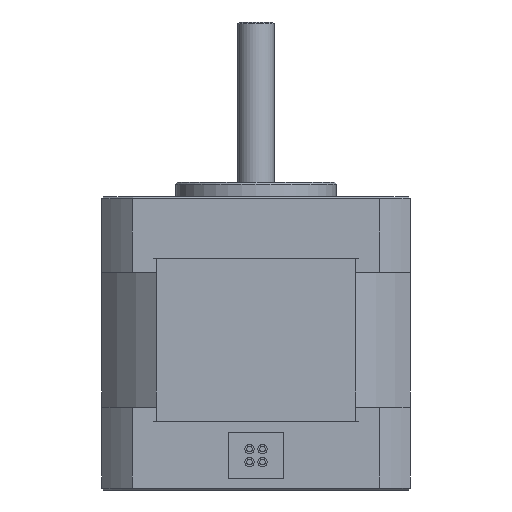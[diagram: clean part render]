
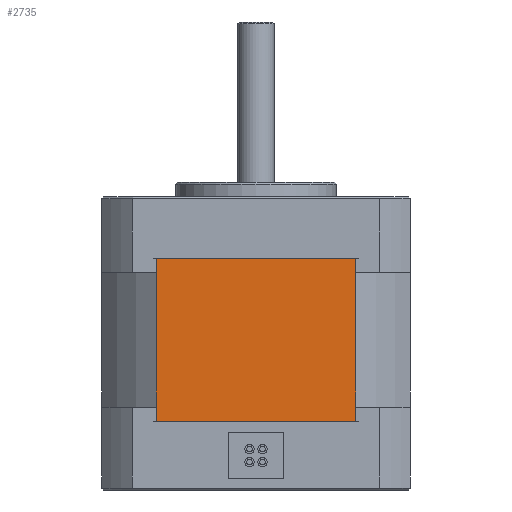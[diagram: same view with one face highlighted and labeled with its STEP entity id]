
A CAD part, front view. The second image highlights one B-rep face of the part: STEP entity #2735.
In plain terms, the highlighted planar face has unit normal (0, -1, 0).
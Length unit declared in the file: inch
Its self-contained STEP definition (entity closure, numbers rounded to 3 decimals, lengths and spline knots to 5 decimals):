
#1723 = EDGE_CURVE ( 'NONE', #1907, #1730, #4923, .T. ) ;
#1730 = VERTEX_POINT ( 'NONE', #4913 ) ;
#1907 = VERTEX_POINT ( 'NONE', #5562 ) ;
#2096 = VERTEX_POINT ( 'NONE', #6810 ) ;
#2138 = VERTEX_POINT ( 'NONE', #6969 ) ;
#2154 = EDGE_CURVE ( 'NONE', #2138, #2096, #6648, .T. ) ;
#2721 = ORIENTED_EDGE ( 'NONE', *, *, #1723, .F. ) ;
#2734 = ORIENTED_EDGE ( 'NONE', *, *, #2737, .F. ) ;
#2735 = ADVANCED_FACE ( 'NONE', ( #6160 ), #6199, .F. ) ;
#2737 = EDGE_CURVE ( 'NONE', #1730, #2096, #6168, .T. ) ;
#2740 = ORIENTED_EDGE ( 'NONE', *, *, #2154, .T. ) ;
#2745 = EDGE_LOOP ( 'NONE', ( #2740, #2734, #2721, #2746 ) ) ;
#2746 = ORIENTED_EDGE ( 'NONE', *, *, #2886, .T. ) ;
#2886 = EDGE_CURVE ( 'NONE', #1907, #2138, #3519, .T. ) ;
#3514 = DIRECTION ( 'NONE',  ( 0., 0., 1. ) ) ;
#3517 = VECTOR ( 'NONE', #3514, 39.37008 ) ;
#3518 = CARTESIAN_POINT ( 'NONE',  ( 0.53473, -0.829, -1.205 ) ) ;
#3519 = LINE ( 'NONE', #3518, #3517 ) ;
#4913 = CARTESIAN_POINT ( 'NONE',  ( -0.53473, -0.829, -1.205 ) ) ;
#4916 = DIRECTION ( 'NONE',  ( -1., 0., 0. ) ) ;
#4917 = VECTOR ( 'NONE', #4916, 39.37008 ) ;
#4923 = LINE ( 'NONE', #5062, #4917 ) ;
#5062 = CARTESIAN_POINT ( 'NONE',  ( 0.53473, -0.829, -1.205 ) ) ;
#5562 = CARTESIAN_POINT ( 'NONE',  ( 0.53473, -0.829, -1.205 ) ) ;
#6160 = FACE_OUTER_BOUND ( 'NONE', #2745, .T. ) ;
#6167 = CARTESIAN_POINT ( 'NONE',  ( -0.53473, -0.829, -1.205 ) ) ;
#6168 = LINE ( 'NONE', #6167, #6216 ) ;
#6171 = AXIS2_PLACEMENT_3D ( 'NONE', #6177, #6176, #6175 ) ;
#6175 = DIRECTION ( 'NONE',  ( -1., 0., 0. ) ) ;
#6176 = DIRECTION ( 'NONE',  ( 0., 1., 0. ) ) ;
#6177 = CARTESIAN_POINT ( 'NONE',  ( 0.53473, -0.829, -1.205 ) ) ;
#6199 = PLANE ( 'NONE',  #6171 ) ;
#6215 = DIRECTION ( 'NONE',  ( 0., 0., 1. ) ) ;
#6216 = VECTOR ( 'NONE', #6215, 39.37008 ) ;
#6647 = CARTESIAN_POINT ( 'NONE',  ( 0.53473, -0.829, -0.33 ) ) ;
#6648 = LINE ( 'NONE', #6647, #6669 ) ;
#6668 = DIRECTION ( 'NONE',  ( -1., 0., 0. ) ) ;
#6669 = VECTOR ( 'NONE', #6668, 39.37008 ) ;
#6810 = CARTESIAN_POINT ( 'NONE',  ( -0.53473, -0.829, -0.33 ) ) ;
#6969 = CARTESIAN_POINT ( 'NONE',  ( 0.53473, -0.829, -0.33 ) ) ;
